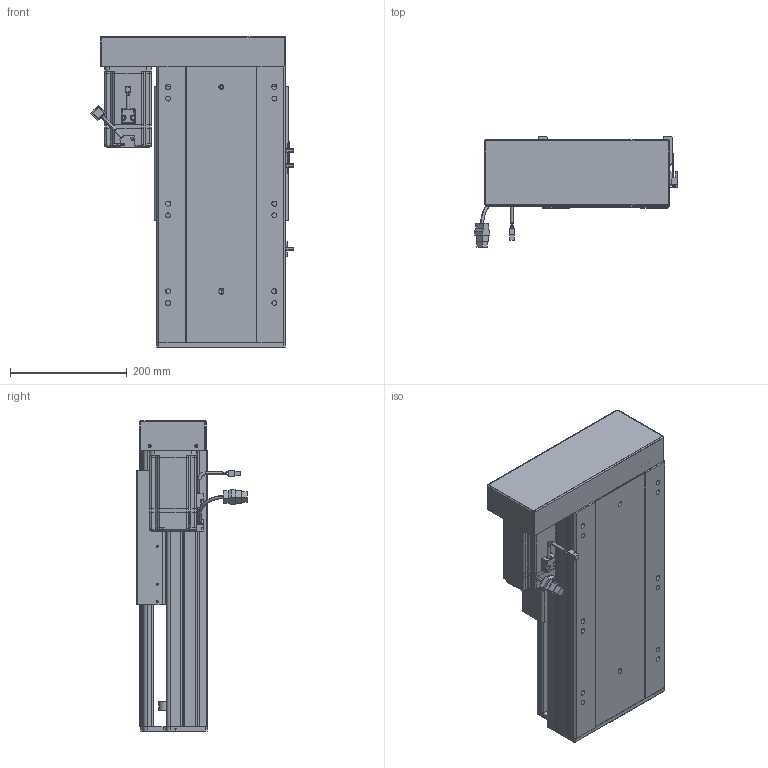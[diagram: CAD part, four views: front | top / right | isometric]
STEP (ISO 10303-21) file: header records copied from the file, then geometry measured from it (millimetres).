
FILE_DESCRIPTION (( 'STEP AP203' ), '1' );
FILE_NAME ('RY220-L2525-300-LK.SLDASM_150.step', '2022-07-04T01:46:15', ( '' ), ( '' ), 'SwSTEP 2.0', 'SolidWorks 2016', '' );
FILE_SCHEMA (( 'CONFIG_CONTROL_DESIGN' ));
Length unit declared in the file: millimetre
Products named in the file (12): 滅袉蝶18-10; RY220-300-蛌殏奻裔啣_150; RY220半封闭25-32螺母铝滑块; RY220左右折电机安装板; RY220-俋离672覜茼んえ; 覜茼ん672; 怢湛750W_ECMA-CX0807ES; RY220酘衵殏萇儂欶; RY220-L2525-300-LK.SLDASM_150; RY220綴裔啣; 滅袉蝶18-15; RY220蛌殏菁釱-300_150
Assembly tree (15 placements, depth 2):
  RY220-L2525-300-LK.SLDASM_150
    RY220蛌殏菁釱-300_150
    RY220-300-蛌殏奻裔啣_150
    怢湛750W_ECMA-CX0807ES
    滅袉蝶18-10  x2
    RY220-俋离672覜茼んえ
    覜茼ん672  x3
    RY220綴裔啣
    RY220半封闭25-32螺母铝滑块
    滅袉蝶18-15  x2
    RY220左右折电机安装板
    RY220酘衵殏萇儂欶
Bounding box: 347.44 x 189.27 x 532 mm (x, y, z)
Volume: 6060597.3 mm3; surface area: 1584016.3 mm2
Topology: 16 solids, 16 shells, 1971 faces, 5428 edges, 3467 vertices
Faces by surface type: plane 896, cylinder 847, cone 158, bspline 44, sphere 16, torus 10
Entity records: 64941 total; most frequent: CARTESIAN_POINT 19077, ORIENTED_EDGE 9568, DIRECTION 8828, EDGE_CURVE 4784, VERTEX_POINT 3123, AXIS2_PLACEMENT_3D 3045, VECTOR 2738, LINE 2738
